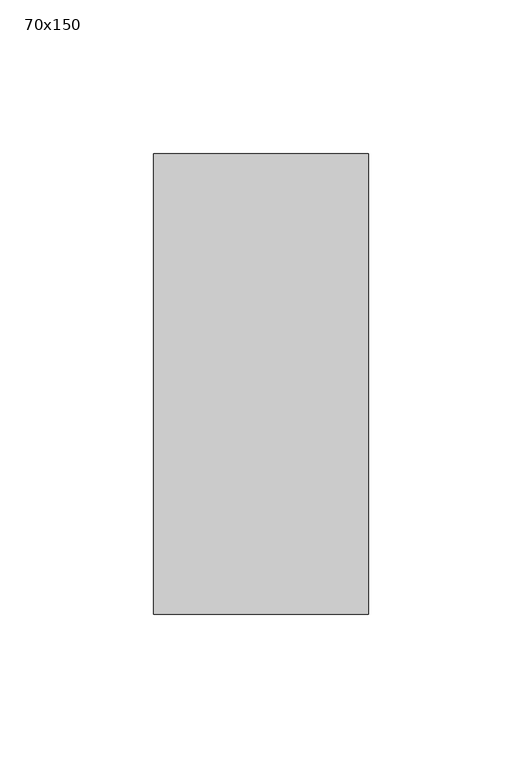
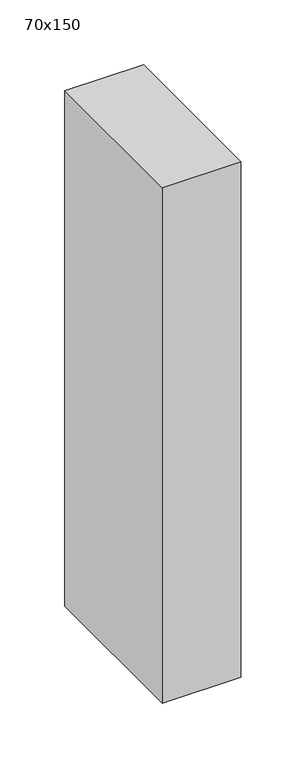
"""IFC4 building model written with IfcOpenShell, lengths in millimetres: member geometry, 長方形のマリオン : 70x150."""

from ifc_helpers import new_model, si_unit, frame, origin, place, context, project, spatial, polyline, outline, extrude, source, transform, mapped, element, save


def member_70x150_a7debf2b(model_context):
    return source(origin(), model_context, "Body", "SweptSolid", [
        extrude(outline(polyline([(0.0, 75.0), (0.0, -75.0), (-70.0, -75.0), (-70.0, 75.0), (0.0, 75.0)])), frame((0.0, 0.0, -485.0), z_axis=(0.0, 0.0, 1.0), x_axis=(1.0, 0.0, 0.0)), (0.0, 0.0, 1.0), 485.0),
    ])


if __name__ == "__main__":
    model = new_model("IFC4")
    model_context = context("Model", 3, world=origin())
    ifc_project = project(units=[si_unit("LENGTHUNIT", "METRE", prefix="MILLI")], contexts=[model_context])
    site = spatial("IfcSite", under=ifc_project)
    building = spatial("IfcBuilding", under=site)
    placement = place(None, origin())
    member_70x150_shape = member_70x150_a7debf2b(model_context)
    element("IfcMember", 1, ObjectType="長方形のマリオン : 70x150", at=placement, inside=building, context=model_context, shape_type="MappedRepresentation", body=[
        mapped(member_70x150_shape, transform((0.0, 0.0, 0.0), x_axis=(1.0, 0.0, 0.0), y_axis=(0.0, 1.0, 0.0), z_axis=(0.0, 0.0, 1.0))),
    ])
    save(model, "model.ifc")
